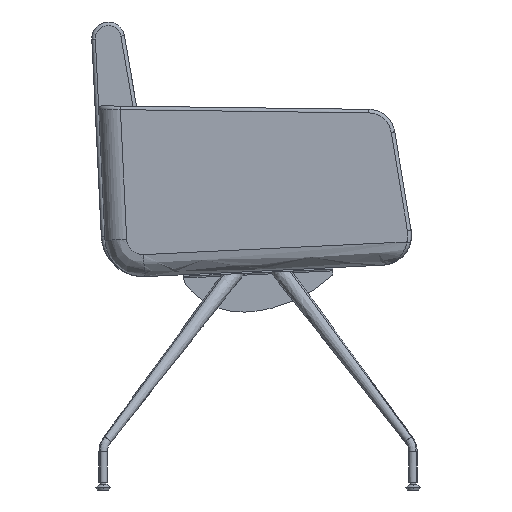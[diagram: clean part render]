
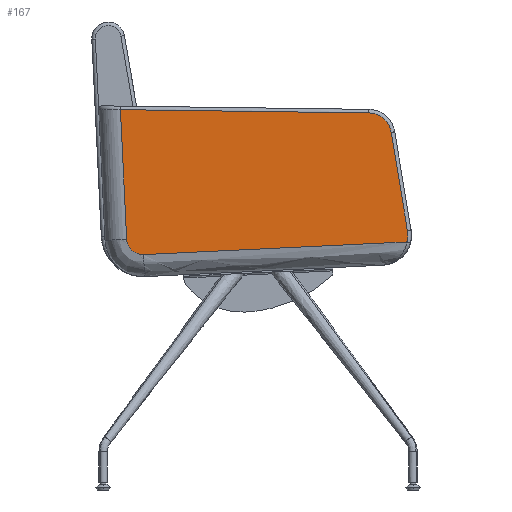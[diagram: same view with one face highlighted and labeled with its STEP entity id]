
A CAD part, left-side view. The second image highlights one B-rep face of the part: STEP entity #167.
In plain terms, the highlighted planar face has unit normal (-1, 0.019, 0).
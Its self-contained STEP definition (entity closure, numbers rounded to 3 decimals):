
#167=ADVANCED_FACE('',(#407),#3230,.T.);
#407=FACE_OUTER_BOUND('',#647,.T.);
#647=EDGE_LOOP('',(#1240,#1241,#1242,#1243,#1244,#1245,#1246));
#1240=ORIENTED_EDGE('',*,*,#2059,.T.);
#1241=ORIENTED_EDGE('',*,*,#2056,.T.);
#1242=ORIENTED_EDGE('',*,*,#2047,.T.);
#1243=ORIENTED_EDGE('',*,*,#2051,.T.);
#1244=ORIENTED_EDGE('',*,*,#2043,.T.);
#1245=ORIENTED_EDGE('',*,*,#2036,.F.);
#1246=ORIENTED_EDGE('',*,*,#2044,.F.);
#2036=EDGE_CURVE('',#3023,#3024,#2611,.T.);
#2043=EDGE_CURVE('',#3033,#3024,#2618,.T.);
#2044=EDGE_CURVE('',#3035,#3023,#2374,.T.);
#2047=EDGE_CURVE('',#3038,#3037,#2621,.T.);
#2051=EDGE_CURVE('',#3037,#3033,#2625,.T.);
#2056=EDGE_CURVE('',#3036,#3038,#2630,.T.);
#2059=EDGE_CURVE('',#3035,#3036,#2633,.T.);
#2374=B_SPLINE_CURVE_WITH_KNOTS('',1,(#5920,#5921),.UNSPECIFIED.,.F.,.F.,
(2,2),(14.204,456.936),.UNSPECIFIED.);
#2611=(
BOUNDED_CURVE()
B_SPLINE_CURVE(3,(#5895,#5896,#5897,#5898,#5899,#5900),.UNSPECIFIED.,.F.,
 .F.)
B_SPLINE_CURVE_WITH_KNOTS((4,1,1,4),(0.574,16.302,
26.915,42.99),.UNSPECIFIED.)
CURVE()
GEOMETRIC_REPRESENTATION_ITEM()
RATIONAL_B_SPLINE_CURVE((1.,1.,1.,1.,1.,
1.))
REPRESENTATION_ITEM('')
);
#2618=(
BOUNDED_CURVE()
B_SPLINE_CURVE(1,(#5918,#5919),.UNSPECIFIED.,.F.,.F.)
B_SPLINE_CURVE_WITH_KNOTS((2,2),(8.235,225.966),
 .UNSPECIFIED.)
CURVE()
GEOMETRIC_REPRESENTATION_ITEM()
RATIONAL_B_SPLINE_CURVE((1.,1.))
REPRESENTATION_ITEM('')
);
#2621=(
BOUNDED_CURVE()
B_SPLINE_CURVE(3,(#5930,#5931,#5932,#5933,#5934),.UNSPECIFIED.,.F.,.F.)
B_SPLINE_CURVE_WITH_KNOTS((4,1,4),(0.019,27.333,54.402),
 .UNSPECIFIED.)
CURVE()
GEOMETRIC_REPRESENTATION_ITEM()
RATIONAL_B_SPLINE_CURVE((1.,1.,1.,1.,1.))
REPRESENTATION_ITEM('')
);
#2625=(
BOUNDED_CURVE()
B_SPLINE_CURVE(1,(#5943,#5944),.UNSPECIFIED.,.F.,.F.)
B_SPLINE_CURVE_WITH_KNOTS((2,2),(0.117,416.598),
 .UNSPECIFIED.)
CURVE()
GEOMETRIC_REPRESENTATION_ITEM()
RATIONAL_B_SPLINE_CURVE((1.,1.))
REPRESENTATION_ITEM('')
);
#2630=(
BOUNDED_CURVE()
B_SPLINE_CURVE(1,(#5964,#5965),.UNSPECIFIED.,.F.,.F.)
B_SPLINE_CURVE_WITH_KNOTS((2,2),(0.019,167.948),
 .UNSPECIFIED.)
CURVE()
GEOMETRIC_REPRESENTATION_ITEM()
RATIONAL_B_SPLINE_CURVE((1.,1.))
REPRESENTATION_ITEM('')
);
#2633=(
BOUNDED_CURVE()
B_SPLINE_CURVE(3,(#5973,#5974,#5975,#5976),.UNSPECIFIED.,.F.,.F.)
B_SPLINE_CURVE_WITH_KNOTS((4,4),(-1.65,16.592),
 .UNSPECIFIED.)
CURVE()
GEOMETRIC_REPRESENTATION_ITEM()
RATIONAL_B_SPLINE_CURVE((1.,1.,1.,1.))
REPRESENTATION_ITEM('')
);
#3023=VERTEX_POINT('',#5859);
#3024=VERTEX_POINT('',#5860);
#3033=VERTEX_POINT('',#5869);
#3035=VERTEX_POINT('',#5871);
#3036=VERTEX_POINT('',#5872);
#3037=VERTEX_POINT('',#5873);
#3038=VERTEX_POINT('',#5874);
#3230=PLANE('',#3550);
#3550=AXIS2_PLACEMENT_3D('',#5649,#3583,$);
#3583=DIRECTION('',(-1.,0.019,0.));
#5649=CARTESIAN_POINT('',(-551.892,258.768,351.764));
#5859=CARTESIAN_POINT('',(-553.189,192.279,394.941));
#5860=CARTESIAN_POINT('',(-552.638,220.544,420.614));
#5869=CARTESIAN_POINT('',(-552.434,231.,638.094));
#5871=CARTESIAN_POINT('',(-561.808,-249.859,416.198));
#5872=CARTESIAN_POINT('',(-561.824,-250.654,434.293));
#5873=CARTESIAN_POINT('',(-560.551,-185.366,632.636));
#5874=CARTESIAN_POINT('',(-561.291,-223.335,599.984));
#5895=CARTESIAN_POINT('',(-553.189,192.279,394.941));
#5896=CARTESIAN_POINT('',(-553.086,197.519,394.673));
#5897=CARTESIAN_POINT('',(-552.914,206.388,396.904));
#5898=CARTESIAN_POINT('',(-552.704,217.128,406.529));
#5899=CARTESIAN_POINT('',(-552.642,220.304,415.256));
#5900=CARTESIAN_POINT('',(-552.638,220.544,420.614));
#5918=CARTESIAN_POINT('',(-552.434,231.,638.094));
#5919=CARTESIAN_POINT('',(-552.638,220.544,420.614));
#5920=CARTESIAN_POINT('',(-561.808,-249.859,416.198));
#5921=CARTESIAN_POINT('',(-553.189,192.279,394.941));
#5930=CARTESIAN_POINT('',(-561.291,-223.335,599.984));
#5931=CARTESIAN_POINT('',(-561.263,-221.897,608.981));
#5932=CARTESIAN_POINT('',(-561.077,-212.368,625.713));
#5933=CARTESIAN_POINT('',(-560.727,-194.393,632.56));
#5934=CARTESIAN_POINT('',(-560.551,-185.366,632.636));
#5943=CARTESIAN_POINT('',(-560.551,-185.366,632.636));
#5944=CARTESIAN_POINT('',(-552.434,231.,638.094));
#5964=CARTESIAN_POINT('',(-561.824,-250.654,434.293));
#5965=CARTESIAN_POINT('',(-561.291,-223.335,599.984));
#5973=CARTESIAN_POINT('',(-561.808,-249.859,416.198));
#5974=CARTESIAN_POINT('',(-561.838,-251.368,422.088));
#5975=CARTESIAN_POINT('',(-561.843,-251.652,428.294));
#5976=CARTESIAN_POINT('',(-561.824,-250.654,434.293));
